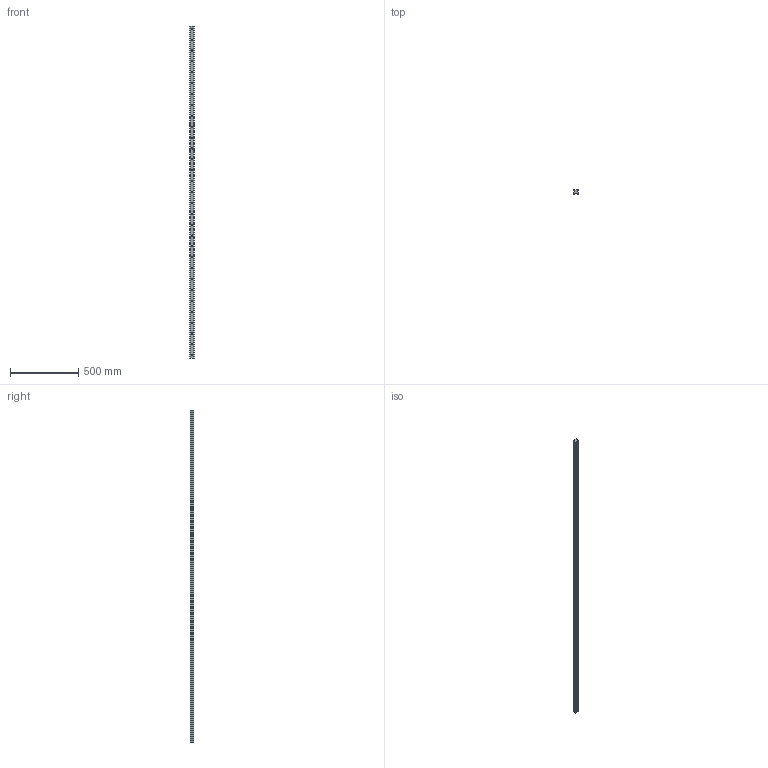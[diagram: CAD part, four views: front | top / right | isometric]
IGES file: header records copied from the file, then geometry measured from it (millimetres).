
Start section: SolidWorks IGES file using analytic representation for surfaces
Global section: file name: C:\Users\IanO\Desktop\Temp File\GENERAL\L1016_v2\L1016.RF35_v2\L1016.RF35_v2_20190612_IGES\L1016.RF35-2440.igs; native system: SolidWorks 2017; preprocessor: SolidWorks 2017; author: IanO; date: 190613.173032; units: millimetre
Bounding box: 34 x 26 x 2440 mm (x, y, z)
Surface area: 318172.1 mm2 (no closed solid volume)
Topology: 0 solids, 0 shells, 243 faces, 3888 edges, 3826 vertices
Faces by surface type: revolution 190, bspline 53
